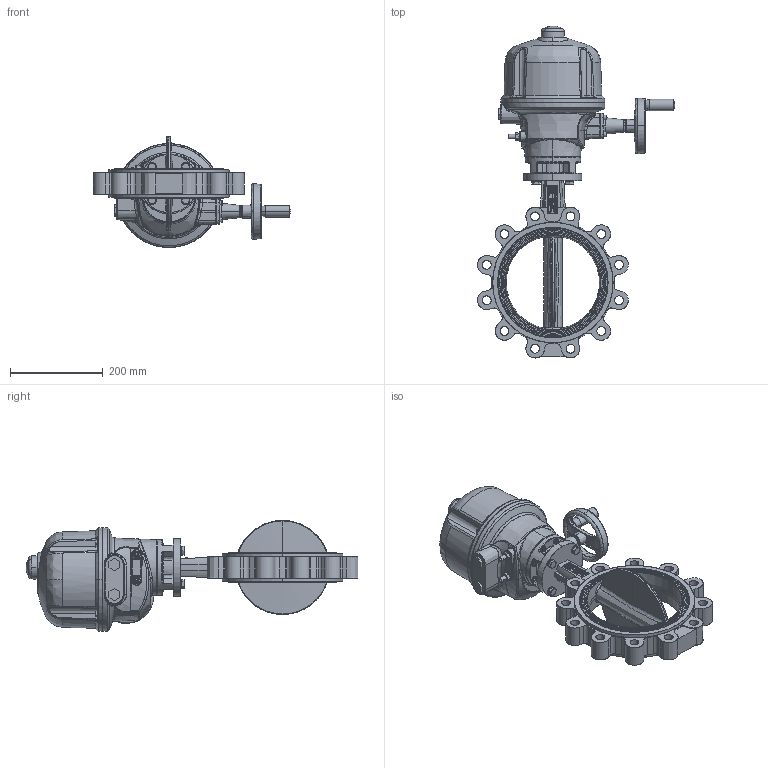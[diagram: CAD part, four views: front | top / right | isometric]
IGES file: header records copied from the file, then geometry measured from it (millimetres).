
Start section: SolidWorks IGES file using analytic representation for surfaces
Global section: file name: H:\BE FABRICATION\BE SERIE\VP\VP SERIE\F072 VPG\plan 3D\VPG-BX4\LUG\DN200\VPG464X-BX4XX0200.igs; native system: SolidWorks 2020; preprocessor: SolidWorks 2020; author: k.gigout; date: 220920.132321; units: millimetre
Bounding box: 424.65 x 715.14 x 239.28 mm (x, y, z)
Surface area: 659819.5 mm2 (no closed solid volume)
Topology: 0 solids, 0 shells, 1154 faces, 22736 edges, 22715 vertices
Faces by surface type: bspline 720, revolution 434
